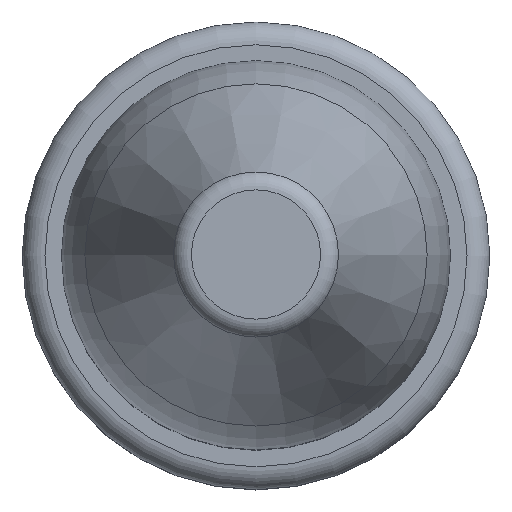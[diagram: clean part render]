
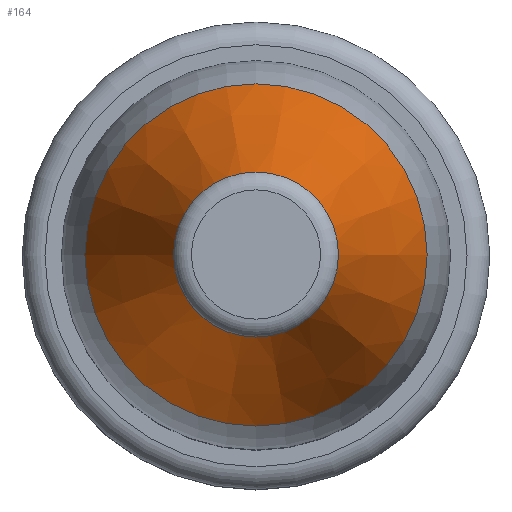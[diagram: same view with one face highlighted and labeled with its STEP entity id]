
A CAD part, top view. The second image highlights one B-rep face of the part: STEP entity #164.
In plain terms, the highlighted conical face has half-angle 20 degrees and reference radius 5.716 mm.
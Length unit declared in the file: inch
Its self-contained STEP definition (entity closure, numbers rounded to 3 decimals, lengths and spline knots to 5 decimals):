
#4 = CARTESIAN_POINT ( 'NONE',  ( 0., 0., 1.22035 ) ) ;
#5 = AXIS2_PLACEMENT_3D ( 'NONE', #4, #75, #111 ) ;
#10 = VERTEX_POINT ( 'NONE', #109 ) ;
#23 = VERTEX_POINT ( 'NONE', #74 ) ;
#32 = EDGE_CURVE ( 'NONE', #10, #10, #87, .T. ) ;
#42 = CONICAL_SURFACE ( 'NONE', #121, 0.22502, 0.349 ) ;
#51 = CIRCLE ( 'NONE', #5, 0.10847 ) ;
#54 = DIRECTION ( 'NONE',  ( 0., 0., -1. ) ) ;
#74 = CARTESIAN_POINT ( 'NONE',  ( 0.10847, 0., 1.22035 ) ) ;
#75 = DIRECTION ( 'NONE',  ( 0., 0., 1. ) ) ;
#85 = DIRECTION ( 'NONE',  ( 1., 0., 0. ) ) ;
#87 = CIRCLE ( 'NONE', #214, 0.22502 ) ;
#95 = ORIENTED_EDGE ( 'NONE', *, *, #32, .T. ) ;
#109 = CARTESIAN_POINT ( 'NONE',  ( 0.22502, 0., 0.90011 ) ) ;
#110 = CARTESIAN_POINT ( 'NONE',  ( 0., 0., 0.90011 ) ) ;
#111 = DIRECTION ( 'NONE',  ( 1., 0., 0. ) ) ;
#117 = EDGE_LOOP ( 'NONE', ( #221 ) ) ;
#121 = AXIS2_PLACEMENT_3D ( 'NONE', #110, #54, #146 ) ;
#129 = FACE_BOUND ( 'NONE', #117, .T. ) ;
#143 = DIRECTION ( 'NONE',  ( 0., 0., 1. ) ) ;
#146 = DIRECTION ( 'NONE',  ( -1., 0., 0. ) ) ;
#151 = EDGE_LOOP ( 'NONE', ( #95 ) ) ;
#164 = ADVANCED_FACE ( 'NONE', ( #129, #187 ), #42, .T. ) ;
#187 = FACE_OUTER_BOUND ( 'NONE', #151, .T. ) ;
#209 = EDGE_CURVE ( 'NONE', #23, #23, #51, .T. ) ;
#214 = AXIS2_PLACEMENT_3D ( 'NONE', #215, #143, #85 ) ;
#215 = CARTESIAN_POINT ( 'NONE',  ( 0., 0., 0.90011 ) ) ;
#221 = ORIENTED_EDGE ( 'NONE', *, *, #209, .F. ) ;
